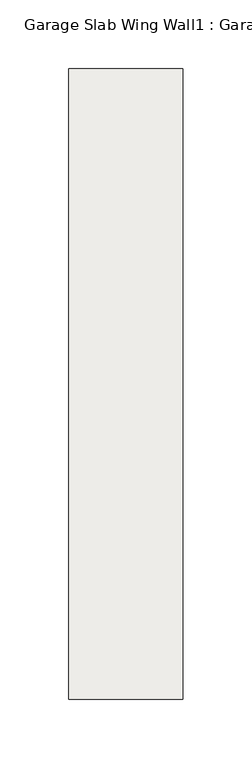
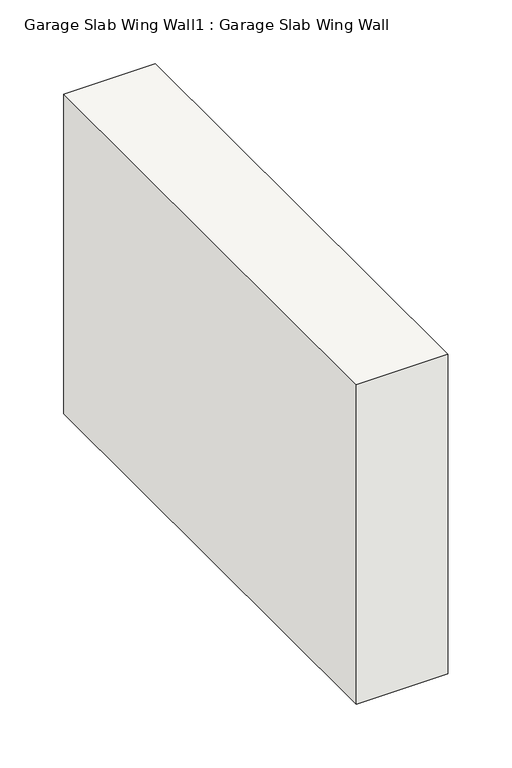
"""IFC4 building model written with IfcOpenShell, lengths in millimetres: slab geometry, Garage Slab Wing Wall1 : Garage Slab Wing Wall."""

from ifc_helpers import new_model, si_unit, frame, origin, place, context, project, spatial, polyline, outline, extrude, source, transform, mapped, element, save


def garage_slab_wing_wall1_garage_slab_wing_wall_d05e71c5(model_context):
    return source(origin(), model_context, "Body", "SweptSolid", [
        extrude(outline(polyline([(-15247.2678637, 5482.1349287), (-15164.7178637, 5482.1349287), (-15164.7178637, 5024.9349287), (-15247.2678637, 5024.9349287), (-15247.2678637, 5482.1349287)])), frame((0.0, 0.0, -304.8), z_axis=(0.0, 0.0, 1.0), x_axis=(1.0, 0.0, 0.0)), (0.0, 0.0, 1.0), 304.8),
    ])


if __name__ == "__main__":
    model = new_model("IFC4")
    model_context = context("Model", 3, world=origin())
    ifc_project = project(units=[si_unit("LENGTHUNIT", "METRE", prefix="MILLI")], contexts=[model_context])
    site = spatial("IfcSite", under=ifc_project)
    building = spatial("IfcBuilding", under=site)
    placement = place(None, origin())
    garage_slab_wing_wall1_garage_slab_wing_wall_shape = garage_slab_wing_wall1_garage_slab_wing_wall_d05e71c5(model_context)
    element("IfcSlab", 1, ObjectType="Garage Slab Wing Wall1 : Garage Slab Wing Wall", at=placement, inside=building, context=model_context, shape_type="MappedRepresentation", body=[
        mapped(garage_slab_wing_wall1_garage_slab_wing_wall_shape, transform((0.0, 0.0, 0.0), x_axis=(1.0, 0.0, 0.0), y_axis=(0.0, 1.0, 0.0), z_axis=(0.0, 0.0, 1.0))),
    ])
    save(model, "model.ifc")
